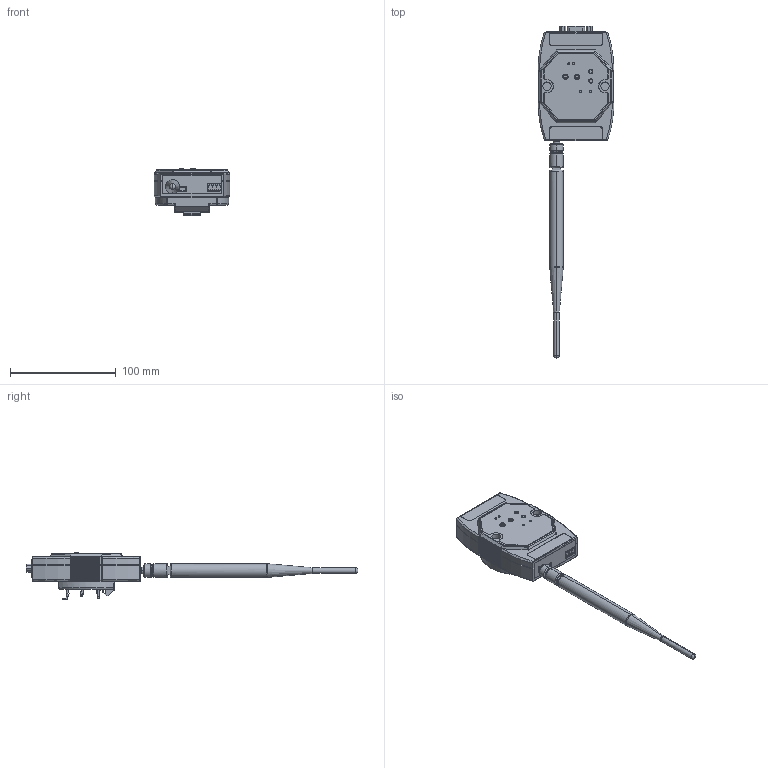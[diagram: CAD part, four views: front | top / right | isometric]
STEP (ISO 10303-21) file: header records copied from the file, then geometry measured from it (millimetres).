
FILE_DESCRIPTION((''),'2;1');
FILE_NAME('XX-3D_OUT-LPG00','2022-11-23T15:33:15',('BCKIM'),(''),'CREO PARAMETRIC BY PTC INC, 2020454','CREO PARAMETRIC BY PTC INC, 2020454','');
FILE_SCHEMA(('CONFIG_CONTROL_DESIGN'));
Products named in the file (1): XX-3D_OUT-LPG00
Bounding box: 72 x 314.52 x 44.6 mm (x, y, z)
Volume: 195494.6 mm3; surface area: 53362.3 mm2
Topology: 1 solids, 5 shells, 1874 faces, 5148 edges, 3340 vertices
Faces by surface type: plane 1023, cylinder 599, torus 150, cone 58, bspline 24, sphere 16, extrusion 4
Entity records: 62523 total; most frequent: CARTESIAN_POINT 14793, ORIENTED_EDGE 10296, DIRECTION 9696, EDGE_CURVE 5148, VERTEX_POINT 3340, AXIS2_PLACEMENT_3D 3300, VECTOR 3096, LINE 3092
